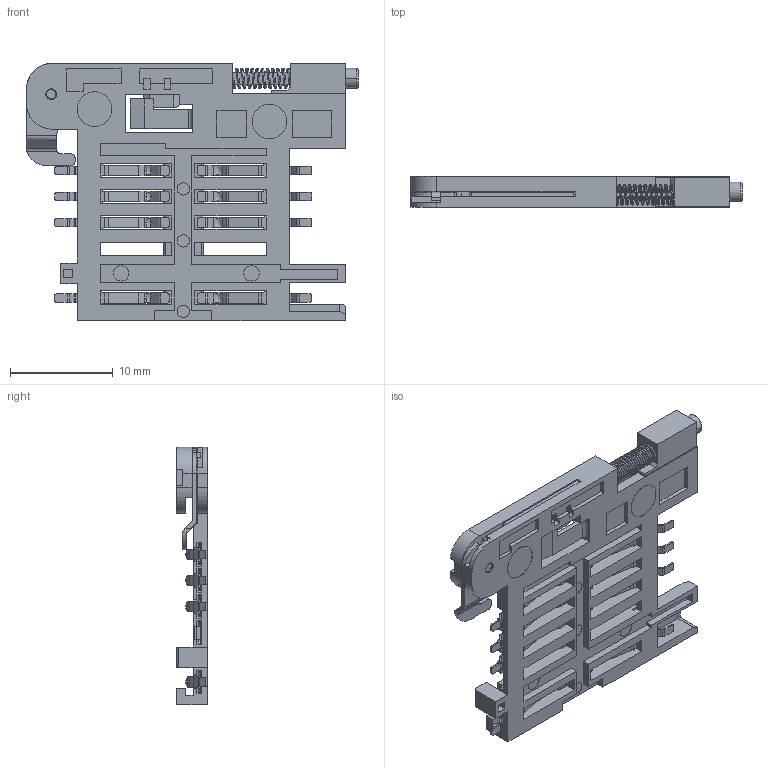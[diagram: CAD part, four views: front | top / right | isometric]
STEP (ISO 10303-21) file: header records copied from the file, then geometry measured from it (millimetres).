
FILE_DESCRIPTION (( 'STEP AP203' ), '1' );
FILE_NAME ('SIM 6+2 Asm ÎÞÖù 2023-02-2.STEP', '2023-02-21T03:58:59', ( '' ), ( '' ), 'SwSTEP 2.0', 'SolidWorks 2021', '' );
FILE_SCHEMA (( 'CONFIG_CONTROL_DESIGN' ));
Length unit declared in the file: millimetre
Products named in the file (8): SIM Housing 拸翐; SIM 6+2 Asm 拸翐 2023-02-2; 唅蛌え; 隅弇奿; KF016-粟銅01; KF016-芢裝 02; KF016-芢裝賑輸02; KF016-_X2_50b78d7d_X0_
Assembly tree (14 placements, depth 2):
  SIM 6+2 Asm 拸翐 2023-02-2
    SIM Housing 拸翐
    唅蛌え
    KF016-芢裝 02
    KF016-芢裝賑輸02
    隅弇奿
    KF016-粟銅01
    KF016-_X2_50b78d7d_X0_  x8
Bounding box: 32.25 x 3 x 25 mm (x, y, z)
Volume: 807.7 mm3; surface area: 2686.1 mm2
Topology: 14 solids, 14 shells, 1532 faces, 4197 edges, 2696 vertices
Faces by surface type: plane 1053, cylinder 329, bspline 138, torus 10, cone 2
Entity records: 32553 total; most frequent: CARTESIAN_POINT 11901, ORIENTED_EDGE 4250, DIRECTION 3818, EDGE_CURVE 2125, LINE 1806, VECTOR 1806, VERTEX_POINT 1380, AXIS2_PLACEMENT_3D 1006
